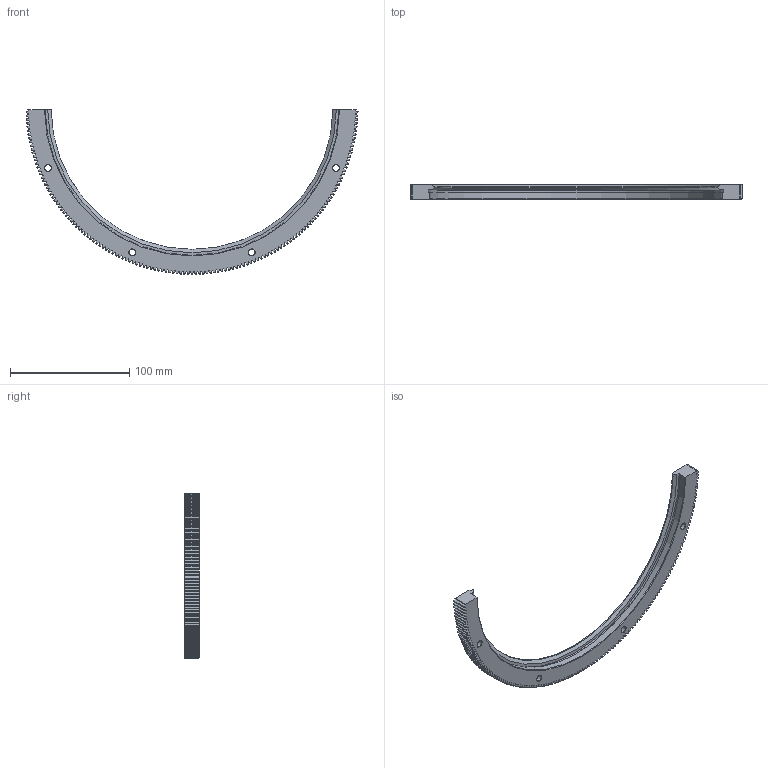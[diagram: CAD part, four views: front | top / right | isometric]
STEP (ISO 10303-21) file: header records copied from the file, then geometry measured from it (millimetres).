
FILE_DESCRIPTION( ( 'STEP AP203' ), '1' );
FILE_NAME( 'p:/temp/worker_77/temp/exporttempdir_3720_844_jPX80/format_0/RIS 278 R180 P.stp', '2021-09-01T01:41:59', ( 'License CC BY-ND 4.0' ), ( 'CADENAS' ), ' ', 'PARTsolutions', ' ' );
FILE_SCHEMA( ( 'CONFIG_CONTROL_DESIGN' ) );
Length unit declared in the file: millimetre
Products named in the file (1): _RIS 278 R180 P
Bounding box: 277.95 x 12.25 x 138 mm (x, y, z)
Volume: 78202.4 mm3; surface area: 31715.5 mm2
Topology: 1 solids, 1 shells, 854 faces, 2540 edges, 1692 vertices
Faces by surface type: plane 562, cylinder 147, cone 144, torus 1
Full cylindrical faces by diameter (mm): 5.5 x4, 10 x4
Entity records: 28742 total; most frequent: CARTESIAN_POINT 5929, ORIENTED_EDGE 5056, DIRECTION 4396, EDGE_CURVE 2528, LINE 1806, VECTOR 1806, VERTEX_POINT 1692, AXIS2_PLACEMENT_3D 1295
